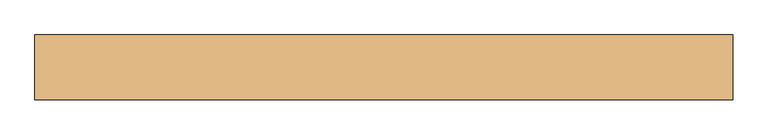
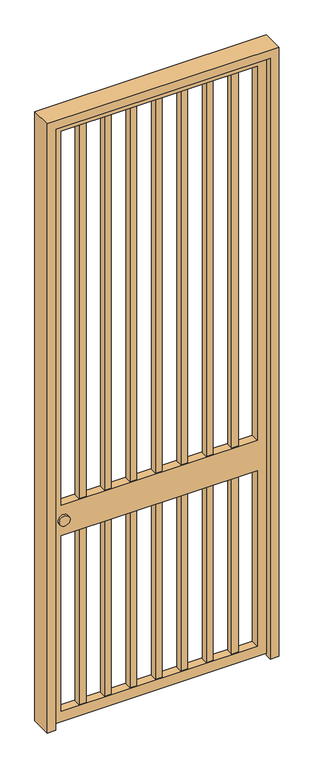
"""IFC4 building model written with IfcOpenShell, lengths in millimetres: door geometry, Portão_metalico : Portão_metalico 1,00 x 3,00m - Manutenção."""

import ifcopenshell
import ifcopenshell.guid

model = None  # the IFC model being written
_history = None  # IfcOwnerHistory: only IFC2X3 demands one
_inside = {}  # id of a spatial element -> (the spatial element, [elements in it])
_under = {}  # id of a project, library or spatial element -> (it, [spatial elements below it])
_declared = {}  # id of a project -> (the project, [libraries it declares])
_typed = {}  # id of a type object -> (the type object, [elements of that type])
_made_of = {}  # id of a material, layer set ... -> (it, [elements and type objects made of it])


def new_model(schema):
    """Start an empty IFC model of exactly this schema.

    Asked for "IFC4X3", IfcOpenShell would pick the latest addendum, in which some entities
    have other attributes; the version numbers below select the first issue.
    IFC2X3 requires an IfcOwnerHistory on every rooted entity: one is made here for all.
    """
    global model, _history
    if schema == "IFC4X3":
        model = ifcopenshell.file(schema_version=(4, 3, 0, 0))
    else:
        model = ifcopenshell.file(schema=schema)
    _inside.clear()
    _under.clear()
    _declared.clear()
    _typed.clear()
    _made_of.clear()
    _history = None
    if model.schema == "IFC2X3":
        org = make("IfcOrganization", Name="unknown")
        user = make(
            "IfcPersonAndOrganization",
            ThePerson=make("IfcPerson", FamilyName="unknown"),
            TheOrganization=org,
        )
        app = make(
            "IfcApplication",
            ApplicationDeveloper=org,
            Version="unknown",
            ApplicationFullName="unknown",
            ApplicationIdentifier="unknown",
        )
        _history = make(
            "IfcOwnerHistory",
            OwningUser=user,
            OwningApplication=app,
            ChangeAction="ADDED",
            CreationDate=0,
        )
    return model


def make(cls, **values):
    """One entity of the class cls with the attributes given. An attribute that is None is left unset."""
    return model.create_entity(
        cls, **{name: value for name, value in values.items() if value is not None}
    )


def rooted(cls, **values):
    """An entity with a GlobalId (a new one), such as an element, a storey or a relation."""
    return make(cls, GlobalId=ifcopenshell.guid.new(), OwnerHistory=_history, **values)


def si_unit(unit_type, name, prefix=None):
    """IfcSIUnit, for example si_unit("LENGTHUNIT", "METRE", prefix="MILLI")."""
    return make("IfcSIUnit", UnitType=unit_type, Prefix=prefix, Name=name)


def assignment(units):
    """IfcUnitAssignment: the units of a project."""
    return None if units is None else make("IfcUnitAssignment", Units=units)


def point(xyz):
    """IfcCartesianPoint."""
    return None if xyz is None else make("IfcCartesianPoint", Coordinates=xyz)


def direction(xyz):
    """IfcDirection."""
    return None if xyz is None else make("IfcDirection", DirectionRatios=xyz)


def frame(location, z_axis=None, x_axis=None):
    """IfcAxis2Placement3D, a coordinate frame: its origin and axes. An axis left out is left unset."""
    return make(
        "IfcAxis2Placement3D",
        Location=point(location),
        Axis=direction(z_axis),
        RefDirection=direction(x_axis),
    )


def origin():
    """The frame at (0, 0, 0) with its axes left unset."""
    return frame((0.0, 0.0, 0.0))


def place(relative_to, where):
    """IfcLocalPlacement: puts the frame where relative to a parent placement (None: the world)."""
    return make(
        "IfcLocalPlacement", PlacementRelTo=relative_to, RelativePlacement=where
    )


def context(
    kind, dimensions, precision=None, world=None, true_north=None, identifier=None
):
    """IfcGeometricRepresentationContext, for example the 3D "Model" context."""
    return make(
        "IfcGeometricRepresentationContext",
        ContextIdentifier=identifier,
        ContextType=kind,
        CoordinateSpaceDimension=dimensions,
        Precision=precision,
        WorldCoordinateSystem=world,
        TrueNorth=true_north,
    )


def project(units=None, contexts=None):
    """IfcProject with its units and contexts."""
    return rooted(
        "IfcProject",
        Name="project",
        RepresentationContexts=contexts,
        UnitsInContext=assignment(units),
    )


def spatial(cls, under=None, at=None, **own):
    """A site, building, storey or space (cls), placed at a placement, below another one or the project."""
    s = rooted(cls, ObjectPlacement=at, **own)
    if under is not None:
        _under.setdefault(under.id(), (under, []))[1].append(s)
    return s


def polyline(points):
    """IfcPolyline through the points."""
    return make("IfcPolyline", Points=[point(p) for p in points])


def circle_curve(where, radius):
    """IfcCircle in the frame where."""
    return make("IfcCircle", Position=where, Radius=radius)


def outline(outer, holes=None, kind="AREA"):
    """IfcArbitraryClosedProfileDef: a profile drawn as a closed curve; with holes, ...WithVoids."""
    if holes is None:
        return make("IfcArbitraryClosedProfileDef", ProfileType=kind, OuterCurve=outer)
    return make(
        "IfcArbitraryProfileDefWithVoids",
        ProfileType=kind,
        OuterCurve=outer,
        InnerCurves=holes,
    )


def extrude(swept, where, along, depth):
    """IfcExtrudedAreaSolid: the profile swept, set in the frame where, extruded along a direction by depth."""
    return make(
        "IfcExtrudedAreaSolid",
        SweptArea=swept,
        Position=where,
        ExtrudedDirection=direction(along),
        Depth=depth,
    )


def faces_of(points, faces, orient=None, outer=None):
    """IfcFace entities. A face is a list of loops; a loop is a list of indices into points, from 0.

    orient and outer hold one flag for each loop. By default every Orientation is true, the
    first loop of a face is its IfcFaceOuterBound and the others are IfcFaceBound.
    """
    made = []
    for i, loops in enumerate(faces):
        bounds = []
        for j, loop in enumerate(loops):
            is_outer = j == 0 if outer is None else outer[i][j]
            bounds.append(
                make(
                    "IfcFaceOuterBound" if is_outer else "IfcFaceBound",
                    Bound=make("IfcPolyLoop", Polygon=[points[k] for k in loop]),
                    Orientation=True if orient is None else orient[i][j],
                )
            )
        made.append(make("IfcFace", Bounds=bounds))
    return made


def faceted_brep(points, faces, orient=None, outer=None, voids=None):
    """IfcFacetedBrep: a solid bounded by flat faces; with voids (closed shells), ...WithVoids."""
    shared = [point(p) for p in points]
    hull = make("IfcClosedShell", CfsFaces=faces_of(shared, faces, orient, outer))
    if voids is None:
        return make("IfcFacetedBrep", Outer=hull)
    return make(
        "IfcFacetedBrepWithVoids",
        Outer=hull,
        Voids=[
            make(cls, CfsFaces=faces_of(shared, fs, o, b)) for cls, fs, o, b in voids
        ],
    )


def shape(context_of_items, identifier, shape_type, items):
    """IfcShapeRepresentation: the items that make up one representation, for example the "Body"."""
    return make(
        "IfcShapeRepresentation",
        ContextOfItems=context_of_items,
        RepresentationIdentifier=identifier,
        RepresentationType=shape_type,
        Items=items,
    )


def source(mapping_origin, context_of_items, identifier, shape_type, items):
    """IfcRepresentationMap: a shape defined once, which mapped items show again and again."""
    return make(
        "IfcRepresentationMap",
        MappingOrigin=mapping_origin,
        MappedRepresentation=shape(context_of_items, identifier, shape_type, items),
    )


def transform(
    local_origin,
    x_axis=None,
    y_axis=None,
    z_axis=None,
    scale=None,
    scale2=None,
    scale3=None,
    uniform=True,
):
    """IfcCartesianTransformationOperator3D, or its non-uniform kind. x_axis, y_axis, z_axis: its Axis1, 2, 3."""
    if uniform:
        return make(
            "IfcCartesianTransformationOperator3D",
            Axis1=direction(x_axis),
            Axis2=direction(y_axis),
            LocalOrigin=point(local_origin),
            Scale=scale,
            Axis3=direction(z_axis),
        )
    return make(
        "IfcCartesianTransformationOperator3DnonUniform",
        Axis1=direction(x_axis),
        Axis2=direction(y_axis),
        LocalOrigin=point(local_origin),
        Scale=scale,
        Axis3=direction(z_axis),
        Scale2=scale2,
        Scale3=scale3,
    )


def mapped(mapping_source, mapping_target):
    """IfcMappedItem: shows the shape of a source again, moved by a transform."""
    return make(
        "IfcMappedItem", MappingSource=mapping_source, MappingTarget=mapping_target
    )


def made_of(thing, what):
    """Note that an element or type object is made of a material, layer set ...; save() writes the relation."""
    if what is not None:
        _made_of.setdefault(what.id(), (what, []))[1].append(thing)
    return thing


def element(
    cls,
    number,
    at=None,
    inside=None,
    cuts=None,
    type_object=None,
    material=None,
    context=None,
    identifier="Body",
    shape_type=None,
    held_by="IfcProductDefinitionShape",
    body=None,
    shapes=None,
    **own,
):
    """One element of the class cls, such as IfcWall. Its Tag is "e" and its number.

    at: its placement. inside: the storey or other place that contains it. cuts: it is an
    opening in that element (IfcRelVoidsElement). A single representation is given by context,
    identifier, shape_type and body (its items); several are given by shapes. held_by: the class
    of the entity that holds the representations. save() writes the other relations.
    """
    e = rooted(cls, Tag="e%d" % number, ObjectPlacement=at, **own)
    if body is not None:
        shapes = [shape(context, identifier, shape_type, body)]
    if shapes is not None:
        e.Representation = make(held_by, Representations=shapes)
    if inside is not None:
        _inside.setdefault(inside.id(), (inside, []))[1].append(e)
    if cuts is not None:
        rooted(
            "IfcRelVoidsElement", RelatingBuildingElement=cuts, RelatedOpeningElement=e
        )
    if type_object is not None:
        _typed.setdefault(type_object.id(), (type_object, []))[1].append(e)
    return made_of(e, material)


def aggregate(whole, parts):
    """IfcRelAggregates: a whole, such as a stair, and the parts it consists of."""
    return rooted("IfcRelAggregates", RelatingObject=whole, RelatedObjects=parts)


def save(model, path):
    """Write the relations noted so far, then the file.

    IfcRelAggregates (storeys below a building ...), IfcRelContainedInSpatialStructure (elements
    in a storey), IfcRelDefinesByType, IfcRelAssociatesMaterial and IfcRelDeclares: one each for
    every whole, place, type object, material and project.
    """
    for whole, parts in _under.values():
        aggregate(whole, parts)
    for where, things in _inside.values():
        rooted(
            "IfcRelContainedInSpatialStructure",
            RelatedElements=things,
            RelatingStructure=where,
        )
    for kind, things in _typed.values():
        rooted("IfcRelDefinesByType", RelatedObjects=things, RelatingType=kind)
    for what, things in _made_of.values():
        rooted("IfcRelAssociatesMaterial", RelatedObjects=things, RelatingMaterial=what)
    for by, libraries in _declared.values():
        rooted("IfcRelDeclares", RelatingContext=by, RelatedDefinitions=libraries)
    model.write(path)


def plane_surface(at):
    """IfcPlane: the flat surface through the origin of the frame at, square to its z axis."""
    return make("IfcPlane", Position=at)


def cylinder_surface(at, radius):
    """IfcCylindricalSurface: all points at the distance radius from the z axis of the frame at."""
    return make("IfcCylindricalSurface", Position=at, Radius=radius)


def advanced_brep(points, edges, surfaces, faces):
    """IfcAdvancedBrep: a solid bounded by faces that lie on surfaces and meet in shared edges.

    An edge is (start, end): straight between two places in points (the first is 0);
    or (start, end, curve); or (start, end, curve, False) where it runs against its curve.
    A face is (place in surfaces, loops), or (place, loops, False) where it looks against
    its surface's normal. A loop lists edges by number (the first is 1), with a minus sign
    where the edge is run from its end to its start. The first loop is the outer one.
    """
    corners = [point(p) for p in points]
    vertices = [make("IfcVertexPoint", VertexGeometry=c) for c in corners]
    made = []
    for start, end, *more in edges:
        made.append(
            make(
                "IfcEdgeCurve",
                EdgeStart=vertices[start],
                EdgeEnd=vertices[end],
                EdgeGeometry=more[0] if more else make("IfcPolyline", Points=[corners[start], corners[end]]),
                SameSense=more[1] if len(more) > 1 else True,
            )
        )
    hull = []
    for where, loops, *sense in faces:
        bounds = []
        for j, loop in enumerate(loops):
            ring = [make("IfcOrientedEdge", EdgeElement=made[abs(k) - 1], Orientation=k > 0) for k in loop]
            bounds.append(
                make(
                    "IfcFaceOuterBound" if j == 0 else "IfcFaceBound",
                    Bound=make("IfcEdgeLoop", EdgeList=ring),
                    Orientation=True,
                )
            )
        hull.append(make("IfcAdvancedFace", Bounds=bounds, FaceSurface=surfaces[where], SameSense=sense[0] if sense else True))
    return make("IfcAdvancedBrep", Outer=make("IfcClosedShell", CfsFaces=hull))


def door_178cd8f4(model_context):
    return source(origin(), model_context, "Body", "SolidModel", [
        extrude(outline(polyline([(-221.3333333, -31.0), (-253.3333333, -31.0), (-253.3333333, 1.0), (-221.3333333, 1.0), (-221.3333333, -31.0)])), frame((0.0, 0.0, 60.0), z_axis=(0.0, 0.0, 1.0), x_axis=(1.0, 0.0, 0.0)), (0.0, 0.0, 1.0), 2857.5),
        extrude(outline(polyline([(-102.6666667, -31.0), (-134.6666667, -31.0), (-134.6666667, 1.0), (-102.6666667, 1.0), (-102.6666667, -31.0)])), frame((0.0, 0.0, 60.0), z_axis=(0.0, 0.0, 1.0), x_axis=(1.0, 0.0, 0.0)), (0.0, 0.0, 1.0), 2857.5),
        extrude(outline(polyline([(-340.0, -31.0), (-372.0, -31.0), (-372.0, 1.0), (-340.0, 1.0), (-340.0, -31.0)])), frame((0.0, 0.0, 60.0), z_axis=(0.0, 0.0, 1.0), x_axis=(1.0, 0.0, 0.0)), (0.0, 0.0, 1.0), 2857.5),
        extrude(outline(polyline([(253.3333333, -31.0), (221.3333333, -31.0), (221.3333333, 1.0), (253.3333333, 1.0), (253.3333333, -31.0)])), frame((0.0, 0.0, 60.0), z_axis=(0.0, 0.0, 1.0), x_axis=(1.0, 0.0, 0.0)), (0.0, 0.0, 1.0), 2857.5),
        extrude(outline(polyline([(134.6666667, -31.0), (102.6666667, -31.0), (102.6666667, 1.0), (134.6666667, 1.0), (134.6666667, -31.0)])), frame((0.0, 0.0, 60.0), z_axis=(0.0, 0.0, 1.0), x_axis=(1.0, 0.0, 0.0)), (0.0, 0.0, 1.0), 2857.5),
        extrude(outline(polyline([(372.0, -31.0), (340.0, -31.0), (340.0, 1.0), (372.0, 1.0), (372.0, -31.0)])), frame((0.0, 0.0, 60.0), z_axis=(0.0, 0.0, 1.0), x_axis=(1.0, 0.0, 0.0)), (0.0, 0.0, 1.0), 2857.5),
        extrude(outline(polyline([(16.0, -31.0), (-16.0, -31.0), (-16.0, 1.0), (16.0, 1.0), (16.0, -31.0)])), frame((0.0, 0.0, 60.0), z_axis=(0.0, 0.0, 1.0), x_axis=(1.0, 0.0, 0.0)), (0.0, 0.0, 1.0), 2857.5),
        faceted_brep([(515.0, 35.0, 0.0), (540.0, 35.0, 0.0), (540.0, -65.0, 0.0), (500.0, -65.0, 0.0), (500.0, -35.0, 0.0), (515.0, -35.0, 0.0), (515.0, -35.0, 2975.0), (515.0, 35.0, 2975.0), (500.0, -35.0, 2960.0), (-500.0, -35.0, 2960.0), (-500.0, -35.0, 0.0), (-515.0, -35.0, 0.0), (-515.0, -35.0, 2975.0), (500.0, -65.0, 2960.0), (540.0, -65.0, 3000.0), (-540.0, -65.0, 3000.0), (-540.0, -65.0, 0.0), (-500.0, -65.0, 0.0), (-500.0, -65.0, 2960.0), (540.0, 35.0, 3000.0), (-515.0, 35.0, 2975.0), (-515.0, 35.0, 0.0), (-540.0, 35.0, 0.0), (-540.0, 35.0, 3000.0)], [[[0, 1, 2, 3, 4, 5]], [[5, 6, 7, 0]], [[4, 8, 9, 10, 11, 12, 6, 5]], [[3, 13, 8, 4]], [[2, 14, 15, 16, 17, 18, 13, 3]], [[1, 19, 14, 2]], [[0, 7, 20, 21, 22, 23, 19, 1]], [[12, 11, 21, 20]], [[21, 11, 10, 17, 16, 22]], [[18, 17, 10, 9]], [[23, 22, 16, 15]], [[6, 12, 20, 7]], [[13, 18, 9, 8]], [[19, 23, 15, 14]]]),
        advanced_brep(
        [(507.0, 5.0, 2967.5), (507.0, 5.0, 10.0), (-507.0, 5.0, 10.0), (-507.0, 5.0, 2967.5), (457.0, 5.0, 60.0), (457.0, 5.0, 925.0), (-457.0, 5.0, 925.0), (-457.0, 5.0, 60.0), (-457.0, 5.0, 2917.5), (-457.0, 5.0, 1075.0), (457.0, 5.0, 1075.0), (457.0, 5.0, 2917.5), (-472.0, 5.0, 1000.0), (-422.0, 5.0, 1000.0), (507.0, -35.0, 2967.5), (-507.0, -35.0, 2967.5), (-507.0, -35.0, 10.0), (507.0, -35.0, 10.0), (457.0, -35.0, 2917.5), (457.0, -35.0, 1075.0), (-457.0, -35.0, 1075.0), (-457.0, -35.0, 2917.5), (-457.0, -35.0, 60.0), (-457.0, -35.0, 925.0), (457.0, -35.0, 925.0), (457.0, -35.0, 60.0), (-422.0, -35.0, 1000.0), (-472.0, -35.0, 1000.0), (-422.0, -45.0, 1000.0), (-472.0, -45.0, 1000.0), (-422.0, 15.0, 1000.0), (-472.0, 15.0, 1000.0)],
        [
            (0, 1),
            (1, 2),
            (2, 3),
            (3, 0),
            (4, 5),
            (5, 6),
            (6, 7),
            (7, 4),
            (8, 9),
            (9, 10),
            (10, 11),
            (11, 8),
            (12, 13, circle_curve(frame((-447.0, 5.0, 1000.0), z_axis=(0.0, -1.0, 0.0), x_axis=(-1.0, 0.0, 0.0)), 25.0)),
            (13, 12, circle_curve(frame((-447.0, 5.0, 1000.0), z_axis=(0.0, -1.0, 0.0), x_axis=(-1.0, 0.0, 0.0)), 25.0)),
            (14, 15),
            (15, 16),
            (16, 17),
            (17, 14),
            (18, 19),
            (19, 20),
            (20, 21),
            (21, 18),
            (22, 23),
            (23, 24),
            (24, 25),
            (25, 22),
            (26, 27, circle_curve(frame((-447.0, -35.0, 1000.0), z_axis=(0.0, 1.0, 0.0), x_axis=(-1.0, 0.0, 0.0)), 25.0)),
            (27, 26, circle_curve(frame((-447.0, -35.0, 1000.0), z_axis=(0.0, 1.0, 0.0), x_axis=(-1.0, 0.0, 0.0)), 25.0)),
            (3, 15),
            (14, 0),
            (2, 16),
            (1, 17),
            (10, 19),
            (18, 11),
            (24, 5),
            (4, 25),
            (21, 8),
            (6, 23),
            (22, 7),
            (20, 9),
            (28, 29, circle_curve(frame((-447.0, -45.0, 1000.0), z_axis=(0.0, -1.0, 0.0), x_axis=(-1.0, 0.0, 0.0)), 25.0)),
            (29, 28, circle_curve(frame((-447.0, -45.0, 1000.0), z_axis=(0.0, -1.0, 0.0), x_axis=(-1.0, 0.0, 0.0)), 25.0)),
            (30, 31, circle_curve(frame((-447.0, 15.0, 1000.0), z_axis=(0.0, 1.0, 0.0), x_axis=(-1.0, 0.0, 0.0)), 25.0)),
            (31, 30, circle_curve(frame((-447.0, 15.0, 1000.0), z_axis=(0.0, 1.0, 0.0), x_axis=(-1.0, 0.0, 0.0)), 25.0)),
            (28, 26),
            (27, 29),
            (31, 12),
            (13, 30),
        ],
        [
            plane_surface(frame((507.0, 5.0, 2967.5), z_axis=(0.0, 1.0, 0.0), x_axis=(0.0, 0.0, 1.0))),
            plane_surface(frame((507.0, -35.0, 2967.5), z_axis=(0.0, -1.0, 0.0), x_axis=(0.0, 0.0, -1.0))),
            plane_surface(frame((-507.0, -35.0, 2967.5), z_axis=(0.0, 0.0, 1.0), x_axis=(0.0, 1.0, 0.0))),
            plane_surface(frame((-507.0, -35.0, 10.0), z_axis=(-1.0, 0.0, 0.0), x_axis=(0.0, 1.0, 0.0))),
            plane_surface(frame((507.0, -35.0, 10.0), z_axis=(0.0, 0.0, -1.0), x_axis=(0.0, 1.0, 0.0))),
            plane_surface(frame((507.0, -35.0, 2967.5), z_axis=(1.0, 0.0, 0.0), x_axis=(0.0, 1.0, 0.0))),
            plane_surface(frame((457.0, -35.0, 60.0), z_axis=(-1.0, 0.0, 0.0), x_axis=(0.0, 1.0, 0.0))),
            plane_surface(frame((457.0, -35.0, 2917.5), z_axis=(0.0, 0.0, -1.0), x_axis=(0.0, 1.0, 0.0))),
            plane_surface(frame((-457.0, -35.0, 2917.5), z_axis=(1.0, 0.0, 0.0), x_axis=(0.0, 1.0, 0.0))),
            plane_surface(frame((-457.0, -35.0, 60.0), z_axis=(0.0, 0.0, 1.0), x_axis=(0.0, 1.0, 0.0))),
            plane_surface(frame((-457.0, -35.0, 1075.0), z_axis=(0.0, 0.0, 1.0), x_axis=(0.0, 1.0, 0.0))),
            plane_surface(frame((457.0, -35.0, 925.0), z_axis=(0.0, 0.0, -1.0), x_axis=(0.0, 1.0, 0.0))),
            plane_surface(frame((-472.0, -45.0, 1000.0), z_axis=(0.0, -1.0, 0.0), x_axis=(0.0, 0.0, 1.0))),
            plane_surface(frame((-472.0, 15.0, 1000.0), z_axis=(0.0, 1.0, 0.0), x_axis=(0.0, 0.0, -1.0))),
            cylinder_surface(frame((-447.0, 15.0, 1000.0), z_axis=(0.0, -1.0, 0.0), x_axis=(-1.0, 0.0, 0.0)), 25.0),
        ],
        [
            (0, [[1, 2, 3, 4], [5, 6, 7, 8], [9, 10, 11, 12], [13, 14]]),
            (1, [[15, 16, 17, 18], [19, 20, 21, 22], [23, 24, 25, 26], [27, 28]]),
            (2, [[29, -15, 30, -4]]),
            (3, [[31, -16, -29, -3]]),
            (4, [[32, -17, -31, -2]]),
            (5, [[-30, -18, -32, -1]]),
            (6, [[-11, 33, -19, 34]]),
            (6, [[-25, 35, -5, 36]]),
            (7, [[-34, -22, 37, -12]]),
            (8, [[-7, 38, -23, 39]]),
            (8, [[-21, 40, -9, -37]]),
            (9, [[-39, -26, -36, -8]]),
            (10, [[-40, -20, -33, -10]]),
            (11, [[-35, -24, -38, -6]]),
            (12, [[41, 42]]),
            (13, [[43, 44]]),
            (14, [[45, -28, 46, -41]]),
            (14, [[47, -14, 48, -44]]),
            (14, [[-46, -27, -45, -42]]),
            (14, [[-48, -13, -47, -43]]),
        ],
    ),
    ])


if __name__ == "__main__":
    model = new_model("IFC4")
    model_context = context("Model", 3, world=origin())
    ifc_project = project(units=[si_unit("LENGTHUNIT", "METRE", prefix="MILLI")], contexts=[model_context])
    site = spatial("IfcSite", under=ifc_project)
    building = spatial("IfcBuilding", under=site)
    placement = place(None, origin())
    door_shape = door_178cd8f4(model_context)
    element("IfcDoor", 1, ObjectType="Portão_metalico : Portão_metalico 1,00 x 3,00m - Manutenção", at=placement, inside=building, context=model_context, shape_type="MappedRepresentation", body=[
        mapped(door_shape, transform((0.0, 0.0, 0.0), x_axis=(1.0, 0.0, 0.0), y_axis=(0.0, 1.0, 0.0), z_axis=(0.0, 0.0, 1.0))),
    ])
    save(model, "model.ifc")
